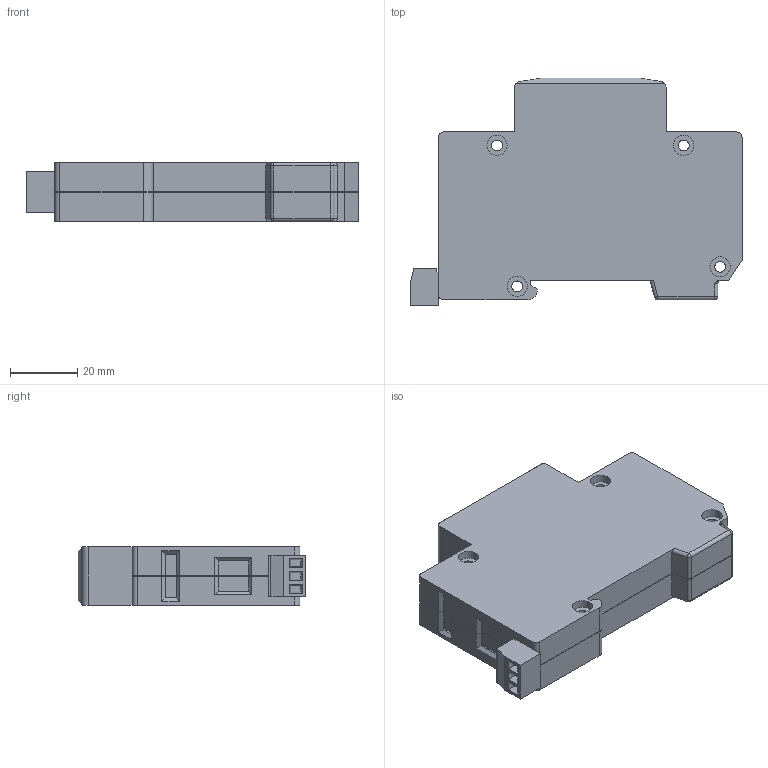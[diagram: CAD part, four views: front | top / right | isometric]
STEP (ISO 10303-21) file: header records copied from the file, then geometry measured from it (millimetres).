
FILE_DESCRIPTION(/* description */ (''),/* implementation_level */ '2;1');
FILE_NAME(/* name */ 'K:\PROJEKTY ROZPRACOVANÉ\MODELY DO KATALOGU\HSA, HLSA 24520, 10007\3D - STEP\HLSA S.stp',/* time_stamp */ '2020-03-17T07:36:21+01:00',/* author */ ('M Koliska'),/* organization */ (''),/* preprocessor_version */ 'ST-DEVELOPER v18',/* originating_system */ 'Autodesk Inventor 2020',/* authorisation */ '');
FILE_SCHEMA (('AUTOMOTIVE_DESIGN { 1 0 10303 214 3 1 1 }'));
Length unit declared in the file: millimetre
Products named in the file (7): HLSA S; HLSA S_1; DIN 7985 (H) - M5x6-H; KONEKTOR DEGSON 15EDGK 3.81; KONEKTOR SAMEC; ISO 2009 - M1,6 x 2,5; KONEKTOR DEGSON 15EDGRC 3.81 (OBRÁCENÉ VÝV
ODY)
Assembly tree (9 placements, depth 3):
  HLSA S
    HLSA S_1
    DIN 7985 (H) - M5x6-H  x2
    KONEKTOR DEGSON 15EDGK 3.81
      KONEKTOR SAMEC
      ISO 2009 - M1,6 x 2,5  x3
    KONEKTOR DEGSON 15EDGRC 3.81 (OBRÁCENÉ VÝV
ODY)
Bounding box: 98.5 x 67.6 x 17.5 mm (x, y, z)
Volume: 85116 mm3; surface area: 20509.9 mm2
Topology: 8 solids, 8 shells, 548 faces, 1444 edges, 955 vertices
Faces by surface type: plane 401, cylinder 85, cone 46, torus 10, sphere 6
Full cylindrical faces by diameter (mm): 0.968 x3, 1 x6, 1.171 x3, 1.6 x3, 1.9 x3, 2 x3, 2.5 x3, 3.2 x4, 4.6 x2, 5 x2, 6 x8
Entity records: 15164 total; most frequent: CARTESIAN_POINT 2676, ORIENTED_EDGE 2542, DIRECTION 2496, EDGE_CURVE 1271, LINE 994, VECTOR 994, VERTEX_POINT 839, AXIS2_PLACEMENT_3D 751
